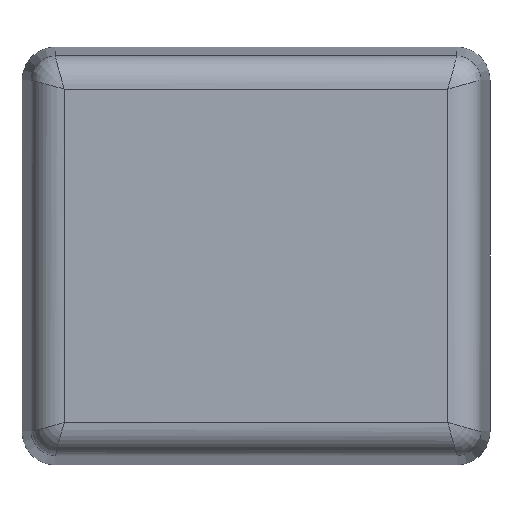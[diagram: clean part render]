
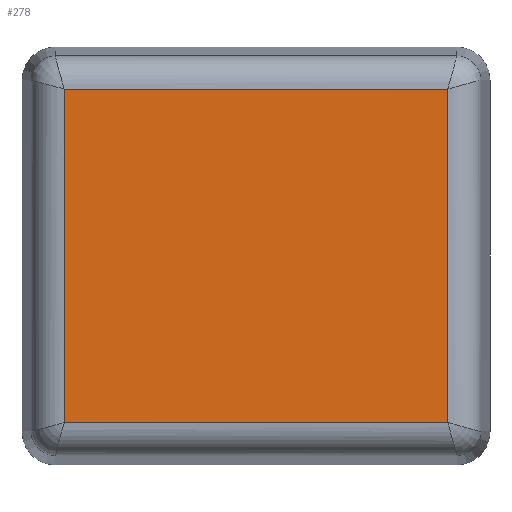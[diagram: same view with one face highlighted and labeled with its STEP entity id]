
A CAD part, top view. The second image highlights one B-rep face of the part: STEP entity #278.
In plain terms, the highlighted planar face has unit normal (0, 0, 1).
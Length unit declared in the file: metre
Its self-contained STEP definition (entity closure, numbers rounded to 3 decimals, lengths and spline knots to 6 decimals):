
#21=PLANE('',#417);
#26=LINE('',#707,#46);
#29=LINE('',#717,#49);
#30=LINE('',#1143,#50);
#33=LINE('',#1152,#53);
#46=VECTOR('',#430,1.);
#49=VECTOR('',#435,1.);
#50=VECTOR('',#438,1.);
#53=VECTOR('',#443,1.);
#106=ORIENTED_EDGE('',*,*,#150,.T.);
#107=ORIENTED_EDGE('',*,*,#146,.T.);
#108=ORIENTED_EDGE('',*,*,#156,.T.);
#109=ORIENTED_EDGE('',*,*,#160,.T.);
#146=EDGE_CURVE('',#178,#182,#26,.T.);
#150=EDGE_CURVE('',#183,#178,#29,.T.);
#156=EDGE_CURVE('',#182,#188,#30,.T.);
#160=EDGE_CURVE('',#188,#183,#33,.T.);
#178=VERTEX_POINT('',#689);
#182=VERTEX_POINT('',#706);
#183=VERTEX_POINT('',#714);
#188=VERTEX_POINT('',#1142);
#219=EDGE_LOOP('',(#106,#107,#108,#109));
#237=FACE_BOUND('',#219,.T.);
#278=ADVANCED_FACE('',(#237),#21,.T.);
#417=AXIS2_PLACEMENT_3D('',#1374,#458,#459);
#430=DIRECTION('',(-1.,0.,0.));
#435=DIRECTION('',(0.,1.,0.));
#438=DIRECTION('',(0.,-1.,0.));
#443=DIRECTION('',(1.,0.,0.));
#458=DIRECTION('',(0.,0.,1.));
#459=DIRECTION('',(-1.,0.,0.));
#689=CARTESIAN_POINT('',(-0.11199,-0.045866,0.01051));
#706=CARTESIAN_POINT('',(-0.113136,-0.045866,0.01051));
#707=CARTESIAN_POINT('',(-0.113163,-0.045866,0.01051));
#714=CARTESIAN_POINT('',(-0.11199,-0.046862,0.01051));
#717=CARTESIAN_POINT('',(-0.11199,-0.045839,0.01051));
#1142=CARTESIAN_POINT('',(-0.113136,-0.046862,0.01051));
#1143=CARTESIAN_POINT('',(-0.113136,-0.046889,0.01051));
#1152=CARTESIAN_POINT('',(-0.111963,-0.046862,0.01051));
#1374=CARTESIAN_POINT('',(-0.113163,-0.045839,0.01051));
